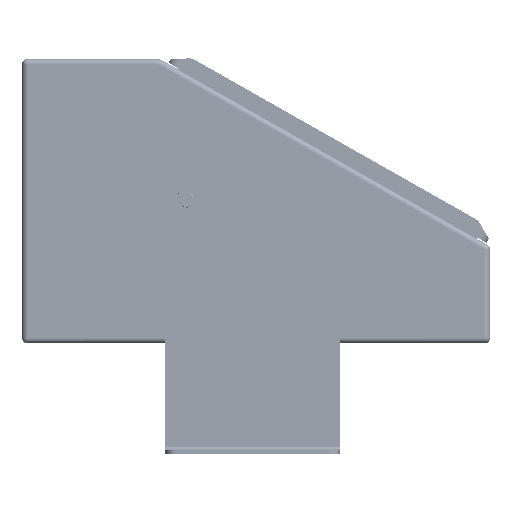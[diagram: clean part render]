
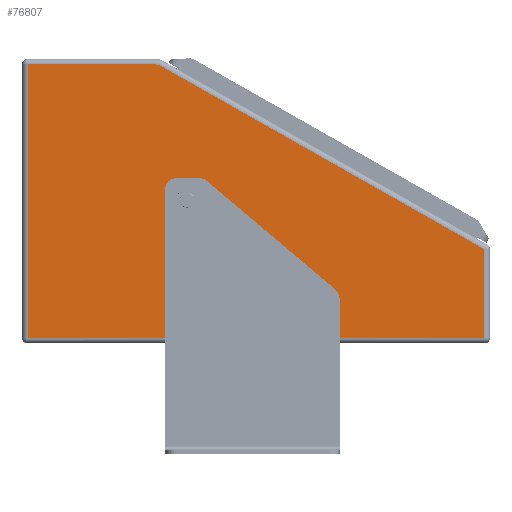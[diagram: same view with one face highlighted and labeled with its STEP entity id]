
A CAD part, left-side view. The second image highlights one B-rep face of the part: STEP entity #76807.
In plain terms, the highlighted planar face has unit normal (-1, 0, 0).
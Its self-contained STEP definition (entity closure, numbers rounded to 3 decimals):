
#2148=PLANE('',#82681);
#8526=FACE_OUTER_BOUND('',#13121,.T.);
#13121=EDGE_LOOP('',(#63989,#63990,#63991,#63992,#63993,#63994,#63995,#63996,
#63997,#63998,#63999,#64000,#64001,#64002));
#15821=CIRCLE('',#80118,4.);
#15823=CIRCLE('',#80122,4.);
#15827=CIRCLE('',#80131,4.);
#16860=CIRCLE('',#82682,5.);
#19054=LINE('',#121742,#26115);
#19059=LINE('',#121756,#26120);
#19067=LINE('',#121778,#26128);
#19074=LINE('',#121793,#26135);
#19078=LINE('',#121808,#26139);
#19080=LINE('',#121815,#26141);
#21796=LINE('',#155565,#28857);
#21797=LINE('',#155567,#28858);
#21798=LINE('',#155571,#28859);
#21799=LINE('',#155572,#28860);
#26115=VECTOR('',#89774,10.);
#26120=VECTOR('',#89787,10.);
#26128=VECTOR('',#89805,10.);
#26135=VECTOR('',#89820,10.);
#26139=VECTOR('',#89840,1000.);
#26141=VECTOR('',#89846,1000.);
#28857=VECTOR('',#97646,1000.);
#28858=VECTOR('',#97647,1000.);
#28859=VECTOR('',#97650,1000.);
#28860=VECTOR('',#97651,1000.);
#33465=VERTEX_POINT('',#121740);
#33466=VERTEX_POINT('',#121741);
#33469=VERTEX_POINT('',#121749);
#33471=VERTEX_POINT('',#121755);
#33473=VERTEX_POINT('',#121761);
#33479=VERTEX_POINT('',#121776);
#33480=VERTEX_POINT('',#121777);
#33484=VERTEX_POINT('',#121790);
#33487=VERTEX_POINT('',#121807);
#33490=VERTEX_POINT('',#121813);
#36232=VERTEX_POINT('',#155564);
#36233=VERTEX_POINT('',#155566);
#36234=VERTEX_POINT('',#155568);
#36235=VERTEX_POINT('',#155570);
#41786=EDGE_CURVE('',#33465,#33466,#19054,.T.);
#41790=EDGE_CURVE('',#33469,#33465,#15821,.T.);
#41793=EDGE_CURVE('',#33471,#33469,#19059,.T.);
#41796=EDGE_CURVE('',#33473,#33471,#15823,.T.);
#41803=EDGE_CURVE('',#33479,#33480,#19067,.T.);
#41812=EDGE_CURVE('',#33484,#33473,#19074,.T.);
#41813=EDGE_CURVE('',#33466,#33479,#15827,.T.);
#41820=EDGE_CURVE('',#33487,#33484,#19078,.T.);
#41824=EDGE_CURVE('',#33480,#33490,#19080,.T.);
#46048=EDGE_CURVE('',#33490,#36232,#21796,.T.);
#46049=EDGE_CURVE('',#36232,#36233,#21797,.T.);
#46050=EDGE_CURVE('',#36234,#36233,#16860,.T.);
#46051=EDGE_CURVE('',#36234,#36235,#21798,.T.);
#46052=EDGE_CURVE('',#36235,#33487,#21799,.T.);
#63989=ORIENTED_EDGE('',*,*,#41803,.T.);
#63990=ORIENTED_EDGE('',*,*,#41824,.T.);
#63991=ORIENTED_EDGE('',*,*,#46048,.T.);
#63992=ORIENTED_EDGE('',*,*,#46049,.T.);
#63993=ORIENTED_EDGE('',*,*,#46050,.F.);
#63994=ORIENTED_EDGE('',*,*,#46051,.T.);
#63995=ORIENTED_EDGE('',*,*,#46052,.T.);
#63996=ORIENTED_EDGE('',*,*,#41820,.T.);
#63997=ORIENTED_EDGE('',*,*,#41812,.T.);
#63998=ORIENTED_EDGE('',*,*,#41796,.T.);
#63999=ORIENTED_EDGE('',*,*,#41793,.T.);
#64000=ORIENTED_EDGE('',*,*,#41790,.T.);
#64001=ORIENTED_EDGE('',*,*,#41786,.T.);
#64002=ORIENTED_EDGE('',*,*,#41813,.T.);
#76807=ADVANCED_FACE('',(#8526),#2148,.F.);
#80118=AXIS2_PLACEMENT_3D('',#121750,#89780,#89781);
#80122=AXIS2_PLACEMENT_3D('',#121762,#89792,#89793);
#80131=AXIS2_PLACEMENT_3D('',#121795,#89823,#89824);
#82681=AXIS2_PLACEMENT_3D('',#155563,#97644,#97645);
#82682=AXIS2_PLACEMENT_3D('',#155569,#97648,#97649);
#89774=DIRECTION('',(0.,-0.764,-0.645));
#89780=DIRECTION('center_axis',(1.,0.,0.));
#89781=DIRECTION('ref_axis',(0.,0.,-1.));
#89787=DIRECTION('',(0.,-1.,0.));
#89792=DIRECTION('center_axis',(1.,0.,0.));
#89793=DIRECTION('ref_axis',(0.,0.,-1.));
#89805=DIRECTION('',(0.,0.,-1.));
#89820=DIRECTION('',(0.,0.,1.));
#89823=DIRECTION('center_axis',(1.,0.,0.));
#89824=DIRECTION('ref_axis',(0.,0.,-1.));
#89840=DIRECTION('',(0.,-1.,0.));
#89846=DIRECTION('',(0.,-1.,0.));
#97644=DIRECTION('center_axis',(1.,0.,0.));
#97645=DIRECTION('ref_axis',(0.,0.,-1.));
#97646=DIRECTION('',(0.,0.,1.));
#97647=DIRECTION('',(0.,0.87,0.493));
#97648=DIRECTION('center_axis',(1.,0.,0.));
#97649=DIRECTION('ref_axis',(0.,0.,-1.));
#97650=DIRECTION('',(0.,1.,0.));
#97651=DIRECTION('',(0.,0.,-1.));
#121740=CARTESIAN_POINT('',(-365.44,35.397,264.556));
#121741=CARTESIAN_POINT('',(-365.44,-34.798,205.27));
#121742=CARTESIAN_POINT('',(-365.44,-66.57,178.435));
#121749=CARTESIAN_POINT('',(-365.44,37.978,265.5));
#121750=CARTESIAN_POINT('Origin',(-365.44,37.978,261.5));
#121755=CARTESIAN_POINT('',(-365.44,50.783,265.5));
#121756=CARTESIAN_POINT('',(-365.44,-41.12,265.5));
#121761=CARTESIAN_POINT('',(-365.44,54.783,261.5));
#121762=CARTESIAN_POINT('Origin',(-365.44,50.783,261.5));
#121776=CARTESIAN_POINT('',(-365.44,-36.217,202.214));
#121777=CARTESIAN_POINT('',(-365.44,-36.217,180.5));
#121778=CARTESIAN_POINT('',(-365.44,-36.217,150.5));
#121790=CARTESIAN_POINT('',(-365.44,54.783,180.5));
#121793=CARTESIAN_POINT('',(-365.44,54.783,219.5));
#121795=CARTESIAN_POINT('Origin',(-365.44,-32.217,202.214));
#121807=CARTESIAN_POINT('',(-365.44,131.783,180.5));
#121808=CARTESIAN_POINT('',(-365.44,-120.217,180.5));
#121813=CARTESIAN_POINT('',(-365.44,-117.217,180.5));
#121815=CARTESIAN_POINT('',(-365.44,-120.217,180.5));
#155563=CARTESIAN_POINT('Origin',(-365.44,-120.217,177.5));
#155564=CARTESIAN_POINT('',(-365.44,-117.217,228.752));
#155565=CARTESIAN_POINT('',(-365.44,-117.217,177.5));
#155566=CARTESIAN_POINT('',(-365.44,59.427,328.85));
#155567=CARTESIAN_POINT('',(-365.44,-141.471,215.008));
#155568=CARTESIAN_POINT('',(-365.44,61.892,329.5));
#155569=CARTESIAN_POINT('Origin',(-365.44,61.892,324.5));
#155570=CARTESIAN_POINT('',(-365.44,131.783,329.5));
#155571=CARTESIAN_POINT('',(-365.44,-120.217,329.5));
#155572=CARTESIAN_POINT('',(-365.44,131.783,177.5));
